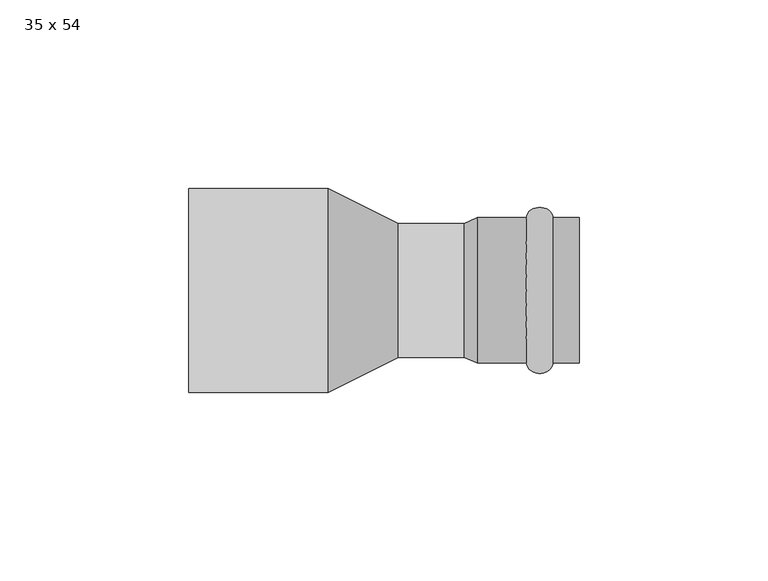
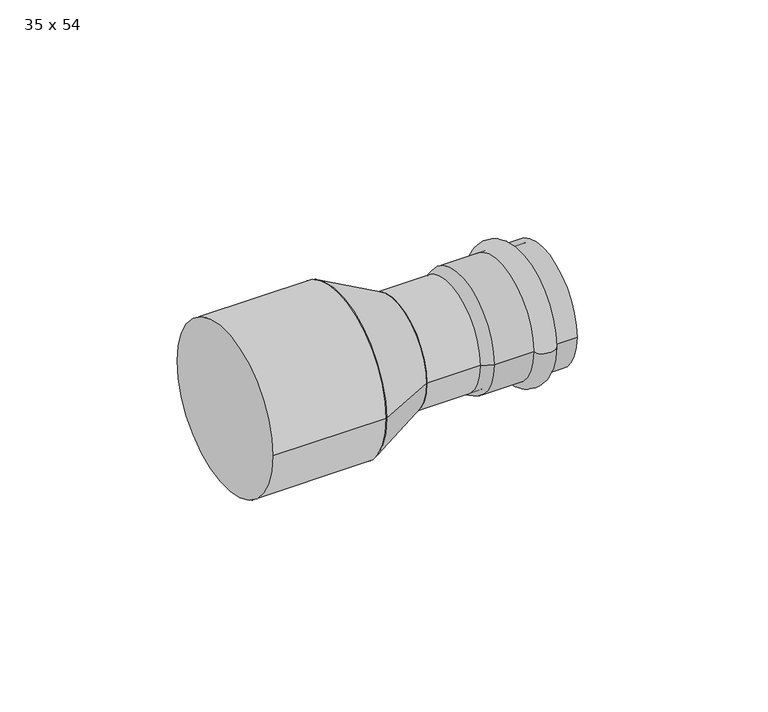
"""IFC4 building model written with IfcOpenShell, lengths in millimetres: pipe fitting geometry, РЕХАУ_Пресс Вставка переходная : 35 x 54."""

from ifc_helpers import new_model, si_unit, point, frame, origin, origin_2d, place, context, project, spatial, polyline, circle_curve, ellipse_curve, trimmed, segment, composite_curve, outline, extrude, source, transform, mapped, element, save
from ifc_brep_helpers import plane_surface, cylinder_surface, revolved_surface, advanced_brep


def pipe_fitting_35_x_54_1e891759(model_context):
    return source(origin(), model_context, "Body", "SolidModel", [
        advanced_brep(
        [(96.5, 19.25, 0.0), (96.5, -19.25, 0.0), (89.5, -19.25, 0.0), (89.5, 19.25, 0.0)],
        [
            (0, 1, circle_curve(frame((96.5, 0.0, 0.0), z_axis=(1.0, 0.0, 0.0), x_axis=(0.0, -1.0, 0.0)), 19.25)),
            (1, 2),
            (2, 3, circle_curve(frame((89.5, 0.0, 0.0), z_axis=(-1.0, 0.0, 0.0), x_axis=(0.0, -1.0, 0.0)), 19.25)),
            (3, 0),
            (1, 0, circle_curve(frame((96.5, 0.0, 0.0), z_axis=(1.0, 0.0, 0.0), x_axis=(0.0, -1.0, 0.0)), 19.25)),
            (3, 2, circle_curve(frame((89.5, 0.0, 0.0), z_axis=(-1.0, 0.0, 0.0), x_axis=(0.0, -1.0, 0.0)), 19.25)),
            (2, 1, ellipse_curve(frame((93.0, -19.25, 0.0), z_axis=(0.0, 0.0, 1.0), x_axis=(1.0, 0.0, 0.0)), 3.5, 2.75)),
            (0, 3, ellipse_curve(frame((93.0, 19.25, 0.0), z_axis=(0.0, 0.0, 1.0), x_axis=(1.0, 0.0, 0.0)), 3.5, 2.75)),
        ],
        [
            revolved_surface(polyline([(89.5, -19.25, 0.0), (96.5, -19.25, 0.0)]), (73.5, 0.0, 0.0), (-1.0, 0.0, 0.0)),
            revolved_surface(trimmed(ellipse_curve(frame((93.0, -19.25, 0.0), z_axis=(0.0, 0.0, -1.0), x_axis=(1.0, 0.0, 0.0)), 3.5, 2.75), [point((96.5, -19.25, 0.0))], [point((89.5, -19.25, 0.0))], True, "CARTESIAN"), (73.5, 0.0, 0.0), (-1.0, 0.0, 0.0)),
        ],
        [
            (0, [[1, 2, 3, 4]]),
            (0, [[5, -4, 6, -2]]),
            (1, [[-3, 7, -1, 8]]),
            (1, [[-6, -8, -5, -7]]),
        ],
    ),
        advanced_brep(
        [(72.9662215, 17.75, 0.0), (72.9662215, -17.75, 0.0), (76.5, -19.25, 0.0), (76.5, 19.25, 0.0), (103.5, 17.75, 0.0), (103.5, -17.75, 0.0), (103.5, 19.25, 0.0), (103.5, -19.25, 0.0)],
        [
            (0, 1, circle_curve(frame((72.9662215, 0.0, 0.0), z_axis=(1.0, 0.0, 0.0), x_axis=(0.0, -1.0, 0.0)), 17.75)),
            (1, 2),
            (2, 3, circle_curve(frame((76.5, 0.0, 0.0), z_axis=(-1.0, 0.0, 0.0), x_axis=(0.0, -1.0, 0.0)), 19.25)),
            (3, 0),
            (1, 0, circle_curve(frame((72.9662215, 0.0, 0.0), z_axis=(1.0, 0.0, 0.0), x_axis=(0.0, -1.0, 0.0)), 17.75)),
            (3, 2, circle_curve(frame((76.5, 0.0, 0.0), z_axis=(-1.0, 0.0, 0.0), x_axis=(0.0, -1.0, 0.0)), 19.25)),
            (4, 5, circle_curve(frame((103.5, 0.0, 0.0), z_axis=(1.0, 0.0, 0.0), x_axis=(0.0, -1.0, 0.0)), 17.75)),
            (5, 1),
            (0, 4),
            (5, 4, circle_curve(frame((103.5, 0.0, 0.0), z_axis=(1.0, 0.0, 0.0), x_axis=(0.0, -1.0, 0.0)), 17.75)),
            (6, 7, circle_curve(frame((103.5, 0.0, 0.0), z_axis=(1.0, 0.0, 0.0), x_axis=(0.0, -1.0, 0.0)), 19.25)),
            (7, 5),
            (4, 6),
            (7, 6, circle_curve(frame((103.5, 0.0, 0.0), z_axis=(1.0, 0.0, 0.0), x_axis=(0.0, -1.0, 0.0)), 19.25)),
            (2, 7),
            (6, 3),
        ],
        [
            revolved_surface(polyline([(76.5, -19.25, 0.0), (72.9662215, -17.75, 0.0)]), (73.5, 0.0, 0.0), (-1.0, 0.0, 0.0)),
            revolved_surface(polyline([(72.9662215, -17.75, 0.0), (103.5, -17.75, 0.0)]), (73.5, 0.0, 0.0), (-1.0, 0.0, 0.0)),
            plane_surface(frame((103.5, 0.0, 0.0), z_axis=(1.0, 0.0, 0.0), x_axis=(0.0, -1.0, 0.0))),
            cylinder_surface(frame((73.5, 0.0, 0.0), z_axis=(-1.0, 0.0, 0.0), x_axis=(0.0, -1.0, 0.0)), 19.25),
        ],
        [
            (0, [[1, 2, 3, 4]]),
            (0, [[5, -4, 6, -2]]),
            (1, [[7, 8, -1, 9]]),
            (1, [[10, -9, -5, -8]]),
            (2, [[11, 12, -7, 13]]),
            (2, [[14, -13, -10, -12]]),
            (3, [[-3, 15, -11, 16]]),
            (3, [[-6, -16, -14, -15]]),
        ],
    ),
        extrude(outline(composite_curve([segment(trimmed(circle_curve(origin_2d(), 17.75), [point((-17.75, 0.0))], [point((17.75, 0.0))], False, "CARTESIAN"), True, "CONTINUOUS"), segment(trimmed(circle_curve(origin_2d(), 17.75), [point((17.75, 0.0))], [point((-17.75, 0.0))], False, "CARTESIAN"), True, "CONTINUOUS")], self_intersect=False)), frame((55.5, 0.0, 0.0), z_axis=(1.0, 0.0, 0.0), x_axis=(0.0, 1.0, 0.0)), (0.0, 0.0, 1.0), 21.0),
        advanced_brep(
        [(55.5, -17.75, 0.0), (55.5, 17.75, 0.0), (37.0, -27.0, 0.0), (37.0, 27.0, 0.0)],
        [
            (0, 1, circle_curve(frame((55.5, 0.0, 0.0), z_axis=(1.0, 0.0, 0.0), x_axis=(0.0, -1.0, 0.0)), 17.75)),
            (1, 0, circle_curve(frame((55.5, 0.0, 0.0), z_axis=(1.0, 0.0, 0.0), x_axis=(0.0, 1.0, 0.0)), 17.75)),
            (2, 3, circle_curve(frame((37.0, 0.0, 0.0), z_axis=(-1.0, 0.0, 0.0), x_axis=(0.0, 1.0, 0.0)), 27.0)),
            (3, 2, circle_curve(frame((37.0, 0.0, 0.0), z_axis=(-1.0, 0.0, 0.0), x_axis=(0.0, -1.0, 0.0)), 27.0)),
            (3, 1),
            (0, 2),
        ],
        [
            plane_surface(frame((55.5, 0.0, 0.0), z_axis=(1.0, 0.0, 0.0), x_axis=(0.0, 0.0, -1.0))),
            plane_surface(frame((37.0, 0.0, 0.0), z_axis=(-1.0, 0.0, 0.0), x_axis=(0.0, 0.0, -1.0))),
            revolved_surface(polyline([(55.5, -17.75, 0.0), (37.0, -27.0, 0.0)]), (91.0, 0.0, 0.0), (-1.0, 0.0, 0.0)),
            revolved_surface(polyline([(55.5, 17.75, 0.0), (37.0, 27.0, 0.0)]), (91.0, 0.0, 0.0), (-1.0, 0.0, 0.0)),
        ],
        [
            (0, [[1, 2]]),
            (1, [[3, 4]]),
            (2, [[-4, 5, -1, 6]]),
            (3, [[-3, -6, -2, -5]]),
        ],
    ),
        extrude(outline(composite_curve([segment(trimmed(circle_curve(origin_2d(), 27.0), [point((-27.0, 0.0))], [point((27.0, 0.0))], False, "CARTESIAN"), True, "CONTINUOUS"), segment(trimmed(circle_curve(origin_2d(), 27.0), [point((27.0, 0.0))], [point((-27.0, 0.0))], False, "CARTESIAN"), True, "CONTINUOUS")], self_intersect=False)), frame((0.0, 0.0, 0.0), z_axis=(1.0, 0.0, 0.0), x_axis=(0.0, 1.0, 0.0)), (0.0, 0.0, 1.0), 37.0),
    ])


if __name__ == "__main__":
    model = new_model("IFC4")
    model_context = context("Model", 3, world=origin())
    ifc_project = project(units=[si_unit("LENGTHUNIT", "METRE", prefix="MILLI")], contexts=[model_context])
    site = spatial("IfcSite", under=ifc_project)
    building = spatial("IfcBuilding", under=site)
    placement = place(None, origin())
    pipe_fitting_35_x_54_shape = pipe_fitting_35_x_54_1e891759(model_context)
    element("IfcPipeFitting", 1, ObjectType="РЕХАУ_Пресс Вставка переходная : 35 x 54", at=placement, inside=building, context=model_context, shape_type="MappedRepresentation", body=[
        mapped(pipe_fitting_35_x_54_shape, transform((0.0, 0.0, 0.0), x_axis=(1.0, 0.0, 0.0), y_axis=(0.0, 1.0, 0.0), z_axis=(0.0, 0.0, 1.0))),
    ])
    save(model, "model.ifc")
